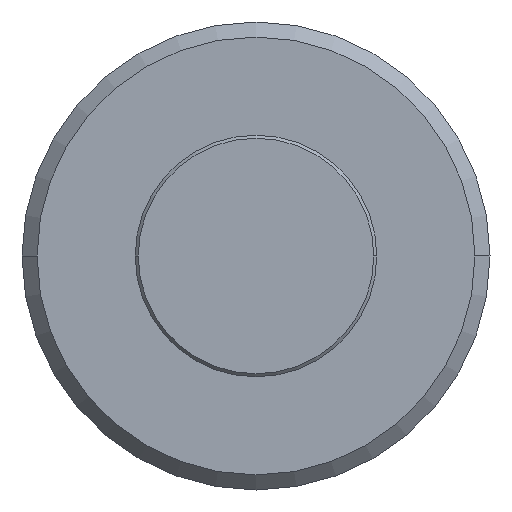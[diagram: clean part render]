
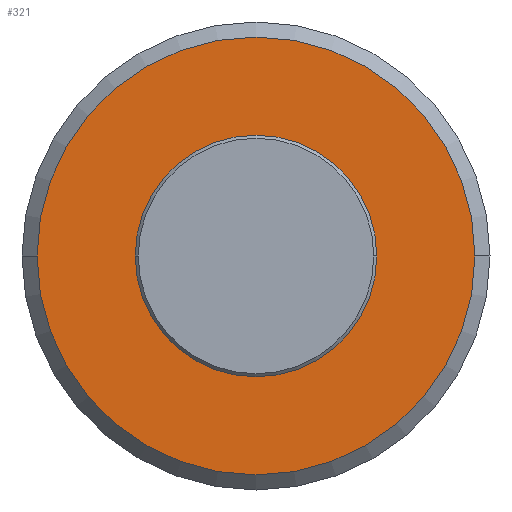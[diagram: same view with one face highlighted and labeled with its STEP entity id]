
A CAD part, left-side view. The second image highlights one B-rep face of the part: STEP entity #321.
In plain terms, the highlighted planar face has unit normal (-1, 0, 0).
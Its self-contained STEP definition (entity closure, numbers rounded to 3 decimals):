
#1 = DIRECTION ( 'NONE',  ( -1., 0., 0. ) ) ;
#3 = DIRECTION ( 'NONE',  ( 0., -1., 0. ) ) ;
#40 = EDGE_CURVE ( 'NONE', #866, #257, #433, .T. ) ;
#70 = FACE_BOUND ( 'NONE', #711, .T. ) ;
#94 = AXIS2_PLACEMENT_3D ( 'NONE', #199, #466, #817 ) ;
#101 = CIRCLE ( 'NONE', #485, 8. ) ;
#132 = DIRECTION ( 'NONE',  ( 0., 1., 0. ) ) ;
#163 = CARTESIAN_POINT ( 'NONE',  ( -24.026, 14.5, 0. ) ) ;
#167 = EDGE_CURVE ( 'NONE', #430, #667, #246, .T. ) ;
#192 = AXIS2_PLACEMENT_3D ( 'NONE', #569, #703, #623 ) ;
#199 = CARTESIAN_POINT ( 'NONE',  ( -24.026, 0., 0. ) ) ;
#246 = CIRCLE ( 'NONE', #192, 8. ) ;
#257 = VERTEX_POINT ( 'NONE', #354 ) ;
#267 = PLANE ( 'NONE',  #601 ) ;
#292 = CIRCLE ( 'NONE', #349, 14.5 ) ;
#321 = ADVANCED_FACE ( 'NONE', ( #70, #498 ), #267, .T. ) ;
#322 = EDGE_CURVE ( 'NONE', #667, #430, #101, .T. ) ;
#349 = AXIS2_PLACEMENT_3D ( 'NONE', #862, #436, #384 ) ;
#354 = CARTESIAN_POINT ( 'NONE',  ( -24.026, -14.5, 0. ) ) ;
#384 = DIRECTION ( 'NONE',  ( 0., 1., 0. ) ) ;
#430 = VERTEX_POINT ( 'NONE', #443 ) ;
#433 = CIRCLE ( 'NONE', #94, 14.5 ) ;
#436 = DIRECTION ( 'NONE',  ( 1., 0., 0. ) ) ;
#443 = CARTESIAN_POINT ( 'NONE',  ( -24.026, 8., 0. ) ) ;
#458 = ORIENTED_EDGE ( 'NONE', *, *, #167, .T. ) ;
#466 = DIRECTION ( 'NONE',  ( 1., 0., 0. ) ) ;
#472 = CARTESIAN_POINT ( 'NONE',  ( -24.026, 8., 0. ) ) ;
#485 = AXIS2_PLACEMENT_3D ( 'NONE', #634, #833, #132 ) ;
#498 = FACE_OUTER_BOUND ( 'NONE', #659, .T. ) ;
#525 = ORIENTED_EDGE ( 'NONE', *, *, #837, .F. ) ;
#569 = CARTESIAN_POINT ( 'NONE',  ( -24.026, 0., 0. ) ) ;
#601 = AXIS2_PLACEMENT_3D ( 'NONE', #472, #1, #3 ) ;
#623 = DIRECTION ( 'NONE',  ( 0., 1., 0. ) ) ;
#634 = CARTESIAN_POINT ( 'NONE',  ( -24.026, 0., 0. ) ) ;
#659 = EDGE_LOOP ( 'NONE', ( #798, #525 ) ) ;
#667 = VERTEX_POINT ( 'NONE', #729 ) ;
#703 = DIRECTION ( 'NONE',  ( 1., 0., 0. ) ) ;
#711 = EDGE_LOOP ( 'NONE', ( #458, #774 ) ) ;
#729 = CARTESIAN_POINT ( 'NONE',  ( -24.026, -8., 0. ) ) ;
#774 = ORIENTED_EDGE ( 'NONE', *, *, #322, .T. ) ;
#798 = ORIENTED_EDGE ( 'NONE', *, *, #40, .F. ) ;
#817 = DIRECTION ( 'NONE',  ( 0., 1., 0. ) ) ;
#833 = DIRECTION ( 'NONE',  ( 1., 0., 0. ) ) ;
#837 = EDGE_CURVE ( 'NONE', #257, #866, #292, .T. ) ;
#862 = CARTESIAN_POINT ( 'NONE',  ( -24.026, 0., 0. ) ) ;
#866 = VERTEX_POINT ( 'NONE', #163 ) ;
